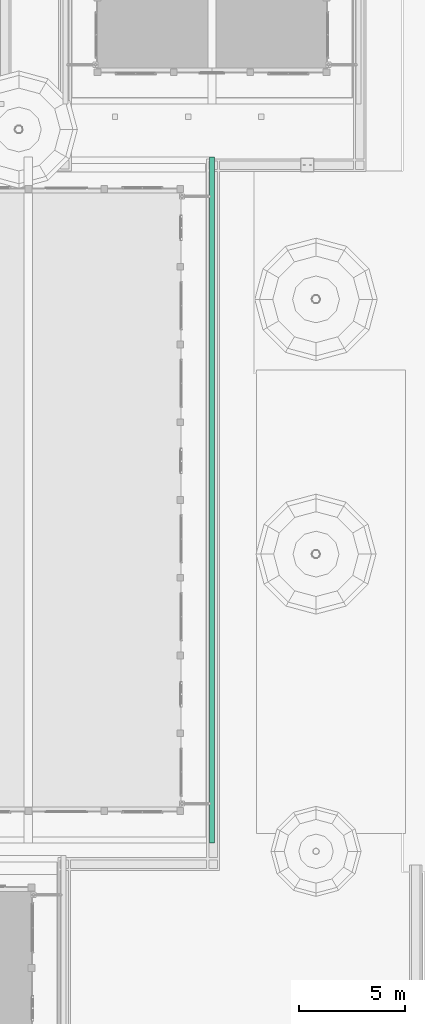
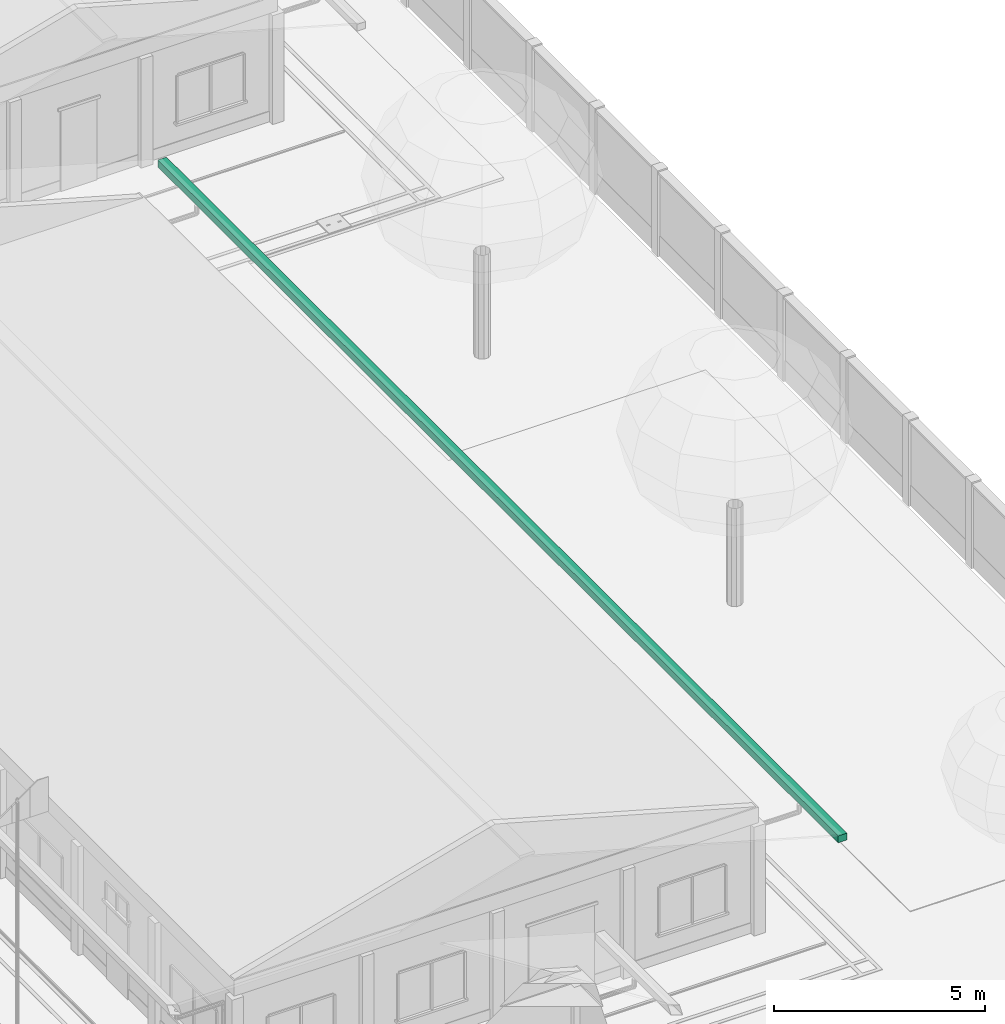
# One storey, part 113 of 177: 1 pipe segment.
"""IFC4 building model written with IfcOpenShell, lengths in metres."""

from ifc_helpers import new_model, si_unit, origin, origin_with_axes, place, context, subcontext, project, spatial, triangles, element, save


model = new_model("IFC4")

# Units and contexts
model_context = context("Model", 3, precision=1e-05, world=origin_with_axes())
body_context = subcontext(model_context, "Body", "Model", "MODEL_VIEW")
ifc_project = project(units=[si_unit("LENGTHUNIT", "METRE"), si_unit("AREAUNIT", "SQUARE_METRE"), si_unit("VOLUMEUNIT", "CUBIC_METRE"), si_unit("PLANEANGLEUNIT", "RADIAN")], contexts=[model_context])

# Site, building, storey
site_placement = place(None, origin_with_axes())
site = spatial("IfcSite", under=ifc_project, at=site_placement, Name="Predio Los Mangos - Morales, San Martín", CompositionType="ELEMENT")
building_placement = place(site_placement, origin())
building = spatial("IfcBuilding", under=site, at=building_placement, Name="Hogar de Refugio Temporal", CompositionType="ELEMENT")
storey_placement = place(building_placement, origin())
storey = spatial("IfcBuildingStorey", under=building, at=storey_placement, Name="NIVEL 1 (NPT +0.00)", CompositionType="ELEMENT", Elevation=0.0)

# Pipe segment
pipe_segment_placement = place(storey_placement, origin())
element("IfcPipeSegment", 1, at=pipe_segment_placement, inside=storey, Name="E-05_canaleta", ObjectType="Canaleta", PredefinedType="GUTTER", context=body_context, shape_type="Tessellation", body=[
    triangles([(60.98, 56.4, 3.13), (61.22, 56.4, 3.13), (61.22, 88.7, 3.13), (60.98, 88.7, 3.13), (60.98, 56.4, 3.33), (61.22, 56.4, 3.33), (61.22, 88.7, 3.33), (60.98, 88.7, 3.33)], [[1, 4, 3], [1, 3, 2], [5, 6, 7], [5, 7, 8], [1, 2, 6], [1, 6, 5], [2, 3, 7], [2, 7, 6], [3, 4, 8], [3, 8, 7], [4, 1, 5], [4, 5, 8]]),
])

save(model, "model.ifc")
